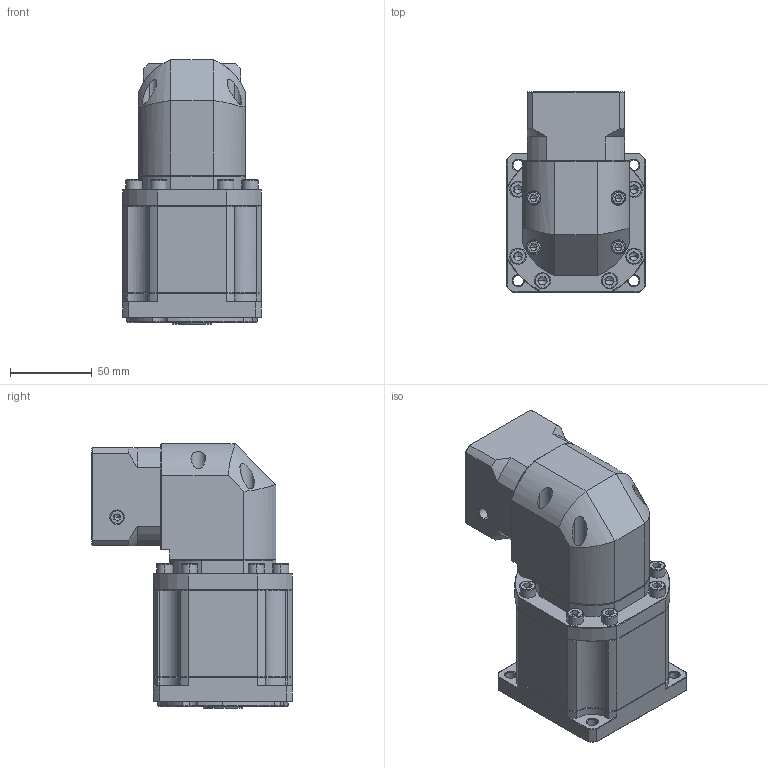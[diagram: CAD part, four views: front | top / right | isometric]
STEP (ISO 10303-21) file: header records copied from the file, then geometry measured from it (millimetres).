
FILE_DESCRIPTION (( 'STEP AP214' ), '1' );
FILE_NAME ('ZBR090-K15-L3-P2-6.35-38.1-47.14x47.14-M4.step', '2023-08-19T04:03:25', ( '' ), ( '' ), 'SwSTEP 2.0', 'SolidWorks 2016', '' );
FILE_SCHEMA (( 'AUTOMOTIVE_DESIGN' ));
Length unit declared in the file: millimetre
Products named in the file (1): ZBR090-K15-L3-P2-6.35-38.1-47.14x47.14-M4
Bounding box: 85 x 122.7 x 162 mm (x, y, z)
Volume: 908928.2 mm3; surface area: 105202.2 mm2
Topology: 5 solids, 5 shells, 2384 faces, 6318 edges, 4036 vertices
Faces by surface type: plane 1172, bspline 428, cylinder 412, cone 364, torus 8
Entity records: 121483 total; most frequent: CARTESIAN_POINT 39337, ORIENTED_EDGE 12548, DIRECTION 10109, EDGE_CURVE 6274, VERTEX_POINT 4036, VECTOR 3973, LINE 3973, AXIS2_PLACEMENT_3D 3068
